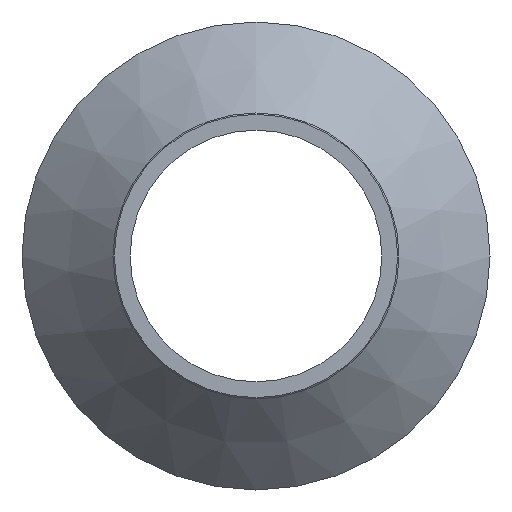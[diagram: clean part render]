
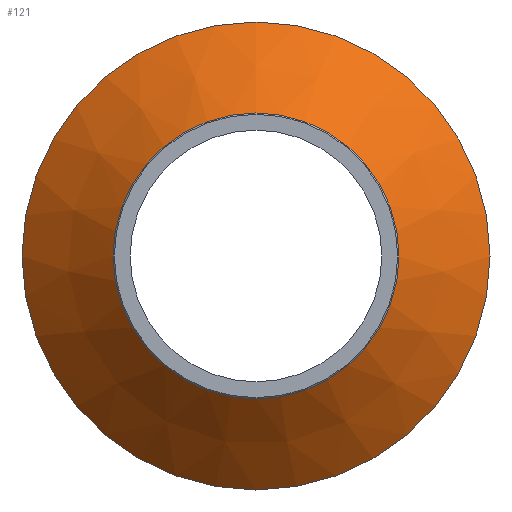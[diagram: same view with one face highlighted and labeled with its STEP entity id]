
A CAD part, left-side view. The second image highlights one B-rep face of the part: STEP entity #121.
In plain terms, the highlighted conical face has half-angle 45.83 degrees and reference radius 90 mm.
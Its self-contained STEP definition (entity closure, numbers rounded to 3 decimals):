
#22=CONICAL_SURFACE('',#146,90.,0.8);
#28=ORIENTED_EDGE('',*,*,#48,.F.);
#29=ORIENTED_EDGE('',*,*,#47,.T.);
#47=EDGE_CURVE('',#57,#57,#67,.T.);
#48=EDGE_CURVE('',#58,#58,#68,.T.);
#57=VERTEX_POINT('',#210);
#58=VERTEX_POINT('',#213);
#67=CIRCLE('',#145,90.);
#68=CIRCLE('',#147,55.);
#78=EDGE_LOOP('',(#28));
#79=EDGE_LOOP('',(#29));
#98=FACE_BOUND('',#78,.T.);
#99=FACE_BOUND('',#79,.T.);
#121=ADVANCED_FACE('',(#98,#99),#22,.T.);
#145=AXIS2_PLACEMENT_3D('',#209,#169,#170);
#146=AXIS2_PLACEMENT_3D('',#211,#171,#172);
#147=AXIS2_PLACEMENT_3D('',#212,#173,#174);
#169=DIRECTION('',(-1.,0.,0.));
#170=DIRECTION('',(0.,0.,1.));
#171=DIRECTION('',(1.,0.,0.));
#172=DIRECTION('',(0.,0.,-1.));
#173=DIRECTION('',(-1.,0.,0.));
#174=DIRECTION('',(0.,0.,1.));
#209=CARTESIAN_POINT('',(17.,0.,0.));
#210=CARTESIAN_POINT('',(17.,0.,90.));
#211=CARTESIAN_POINT('',(17.,0.,0.));
#212=CARTESIAN_POINT('',(-17.,0.,0.));
#213=CARTESIAN_POINT('',(-17.,0.,55.));
